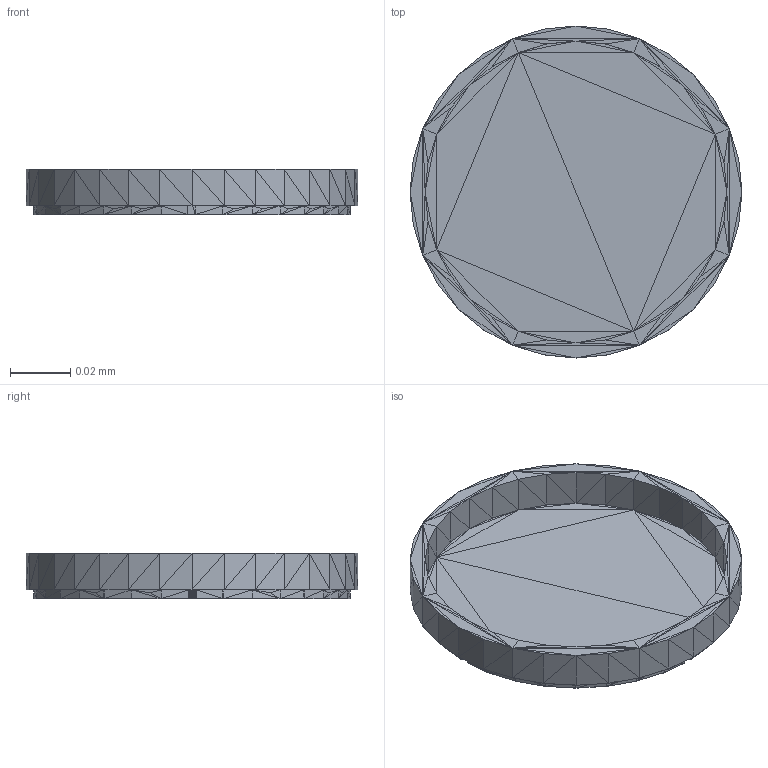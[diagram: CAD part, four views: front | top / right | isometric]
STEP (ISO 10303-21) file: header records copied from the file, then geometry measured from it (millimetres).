
FILE_DESCRIPTION((' Model'),'2;1');
FILE_NAME(' Shape Model','2026-05-29T17:25:33',(''),( ''),' ','','Unknown');
FILE_SCHEMA(('AUTOMOTIVE_DESIGN { 1 0 10303 214 1 1 1 1 }'));
Length unit declared in the file: millimetre
Products named in the file (1):  STEP translator 7.5 1
Bounding box: 0.11 x 0.11 x 0.01 mm (x, y, z)
Surface area: 0 mm2 (no closed solid volume)
Topology: 0 solids, 1 shells, 843 faces, 1264 edges, 423 vertices
Faces by surface type: plane 843
Entity records: 31699 total; most frequent: CARTESIAN_POINT 6326, DIRECTION 4234, LINE 2546, VECTOR 2546, ORIENTED_EDGE 2534, PCURVE 2534, DEFINITIONAL_REPRESENTATION 2534, EDGE_CURVE 1267
